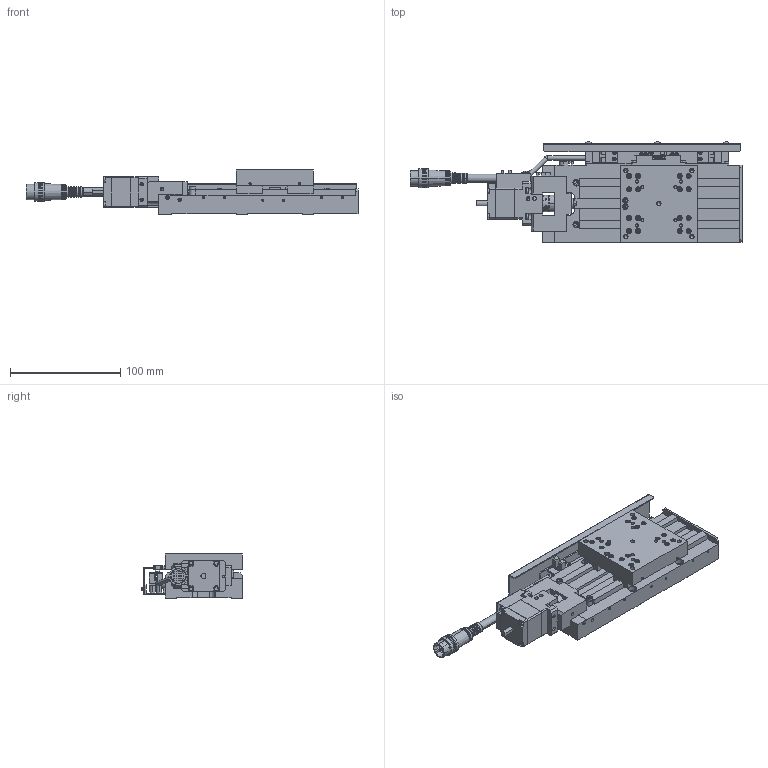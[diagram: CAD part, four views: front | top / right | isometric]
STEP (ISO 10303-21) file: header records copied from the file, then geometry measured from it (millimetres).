
FILE_DESCRIPTION (( 'STEP AP203' ), '1' );
FILE_NAME ('XA07A-L202-R.STEP', '2019-02-25T05:19:07', ( '' ), ( '' ), 'SwSTEP 2.0', 'SolidWorks 2018', '' );
FILE_SCHEMA (( 'CONFIG_CONTROL_DESIGN' ));
Length unit declared in the file: millimetre
Products named in the file (7): base-Part-1; base-Part-3; table; XA07A-L202-R; base-Part-4; base; base-Part-2
Assembly tree (6 placements, depth 3):
  XA07A-L202-R
    base
      base-Part-1
      base-Part-2
      base-Part-3
      base-Part-4
    table
Bounding box: 301.5 x 91.18 x 40 mm (x, y, z)
Volume: 379139.5 mm3; surface area: 107904.1 mm2
Topology: 5 solids, 6 shells, 2313 faces, 5712 edges, 3491 vertices
Faces by surface type: plane 1331, cylinder 568, cone 342, torus 44, sphere 28
Entity records: 68670 total; most frequent: CARTESIAN_POINT 12330, DIRECTION 12107, ORIENTED_EDGE 11176, EDGE_CURVE 5588, AXIS2_PLACEMENT_3D 4304, LINE 3499, VECTOR 3499, VERTEX_POINT 3485
